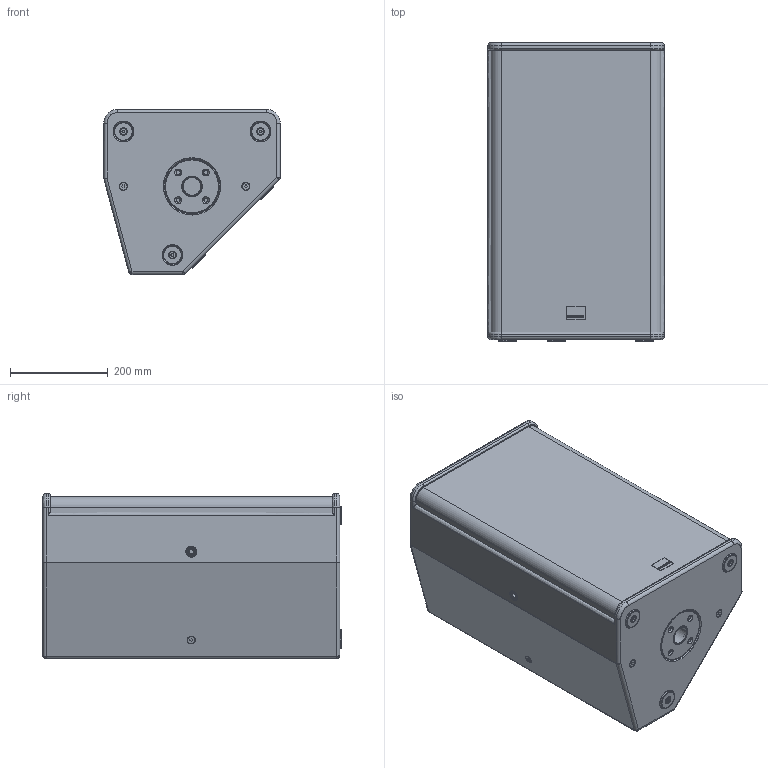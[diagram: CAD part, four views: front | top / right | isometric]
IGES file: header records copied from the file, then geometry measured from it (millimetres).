
Start section: SolidWorks IGES file using analytic representation for surfaces
Global section: file name: C:\Dokumente und Einstellungen\PC_Fabian\Desktop\TS-Serie\Seeburg_TSM12.IGS; native system: SolidWorks 2009; preprocessor: SolidWorks 2009; author: PC_Fabian; date: 121017.133600; units: millimetre
Bounding box: 360 x 609 x 337 mm (x, y, z)
Surface area: 1872665.7 mm2 (no closed solid volume)
Topology: 0 solids, 0 shells, 678 faces, 9062 edges, 9060 vertices
Faces by surface type: revolution 346, bspline 332
